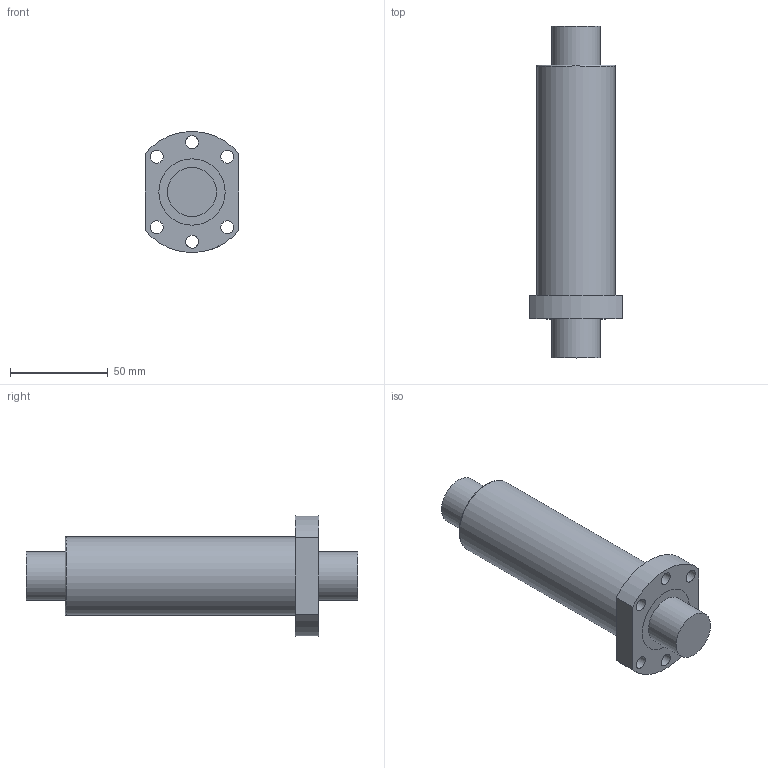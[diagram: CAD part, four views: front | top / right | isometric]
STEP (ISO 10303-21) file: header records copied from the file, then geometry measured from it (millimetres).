
FILE_DESCRIPTION(/* description */ (''),/* implementation_level */ '2;1');
FILE_NAME(/* name */ 'OFU02510-4.stp',/* time_stamp */ '2017-03-13T10:52:45+08:00',/* author */ (''),/* organization */ (''),/* preprocessor_version */ 'ST-DEVELOPER v11',/* originating_system */ 'SIEMENS UGS NX 6.0',/* authorisation */ '');
FILE_SCHEMA (('CONFIG_CONTROL_DESIGN'));
Length unit declared in the file: millimetre
Products named in the file (1): OFU02510-4
Bounding box: 48 x 170 x 61.8 mm (x, y, z)
Volume: 196886.8 mm3; surface area: 50790.7 mm2
Topology: 4 solids, 4 shells, 34 faces, 77 edges, 53 vertices
Faces by surface type: cylinder 19, plane 14, torus 1
Full cylindrical faces by diameter (mm): 4 x1, 5 x1, 6.6 x6, 25 x4, 34 x4, 40 x1
Entity records: 1038 total; most frequent: CARTESIAN_POINT 246, DIRECTION 154, ORIENTED_EDGE 100, EDGE_LOOP 74, AXIS2_PLACEMENT_3D 72, FACE_BOUND 68, EDGE_CURVE 50, VERTEX_POINT 44
